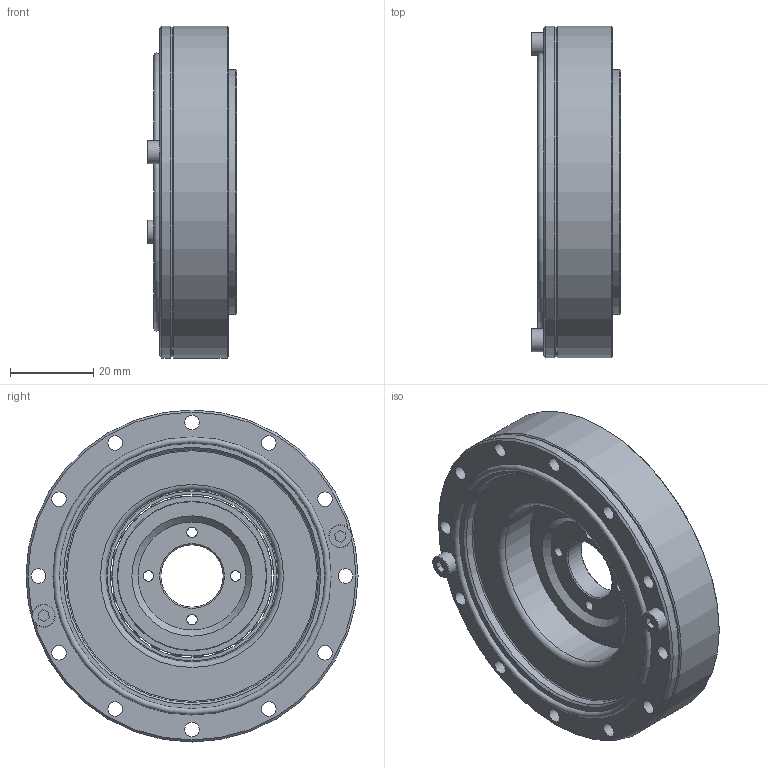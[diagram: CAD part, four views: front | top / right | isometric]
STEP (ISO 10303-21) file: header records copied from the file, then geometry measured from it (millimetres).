
FILE_DESCRIPTION (( 'STEP AP203' ), '1' );
FILE_NAME ('FHD-17-XXX-SH.STEP', '2024-07-04T03:50:15', ( '微软用户' ), ( '微软中国' ), 'SwSTEP 2.0', 'SolidWorks 2016', '' );
FILE_SCHEMA (( 'CONFIG_CONTROL_DESIGN' ));
Length unit declared in the file: millimetre
Products named in the file (1): FHD-17-XXX-SH
Bounding box: 21.5 x 80 x 80 mm (x, y, z)
Volume: 56566.2 mm3; surface area: 49570.1 mm2
Topology: 37 solids, 37 shells, 329 faces, 810 edges, 525 vertices
Faces by surface type: cylinder 138, plane 100, cone 50, sphere 23, torus 18
Full cylindrical faces by diameter (mm): 2.5 x22, 3 x2, 3.5 x26, 5.5 x2, 15 x1, 29.3 x1, 30.3 x2, 32.3 x1, 32.66 x2, 33.5 x1, 36 x1, 38.5 x1, 39.46 x2, 41.522 x2, 42.466 x1, 42.748 x1, 43.67 x1, 44.6 x1, 45.8 x1, 48 x1, 55.657 x1, 59 x3, 59.9 x2, 61 x1, 61.1 x2, 61.5 x1, 64.1 x1, 65.343 x1, 65.5 x1, 68 x2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
Entity records: 8247 total; most frequent: DIRECTION 1600, CARTESIAN_POINT 1294, ORIENTED_EDGE 1068, AXIS2_PLACEMENT_3D 736, EDGE_LOOP 556, EDGE_CURVE 534, VERTEX_POINT 430, FACE_OUTER_BOUND 408
